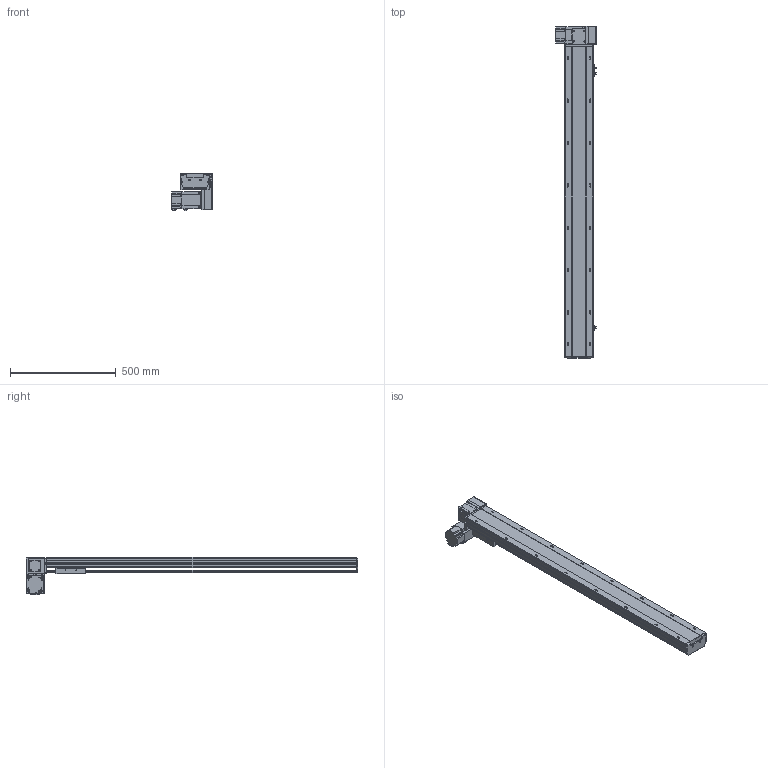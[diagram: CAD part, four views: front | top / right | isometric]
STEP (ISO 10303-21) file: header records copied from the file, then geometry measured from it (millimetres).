
FILE_DESCRIPTION (( 'STEP AP203' ), '1' );
FILE_NAME ('24.STEP', '2020-10-27T11:47:28', ( '' ), ( '' ), 'SwSTEP 2.0', 'SolidWorks 2016', '' );
FILE_SCHEMA (( 'CONFIG_CONTROL_DESIGN' ));
Length unit declared in the file: millimetre
Products named in the file (12): BTB14-RU-24; BTB14-RU-菁釱; BTB14-RU-HZ; BTB14-RU-T75; BTB14-RU-23; BTB14-RU-06; 24; FS-33-T75; FS-07-T75; BTB14-RU-04; BTB14-RU-01; FS-08-T75
Assembly tree (14 placements, depth 2):
  24
    BTB14-RU-菁釱
    BTB14-RU-01
    BTB14-RU-04  x3
    BTB14-RU-06
    BTB14-RU-23  x2
    BTB14-RU-24
    BTB14-RU-HZ
    FS-07-T75
    FS-08-T75
    FS-33-T75
    BTB14-RU-T75
Bounding box: 191.8 x 1568 x 175.5 mm (x, y, z)
Volume: 7519998.2 mm3; surface area: 1527489.7 mm2
Topology: 24 solids, 24 shells, 1798 faces, 4731 edges, 3034 vertices
Faces by surface type: plane 1033, cylinder 498, cone 128, bspline 127, torus 12
Entity records: 53092 total; most frequent: CARTESIAN_POINT 16449, ORIENTED_EDGE 7376, DIRECTION 7106, EDGE_CURVE 3688, LINE 2492, VECTOR 2492, VERTEX_POINT 2412, AXIS2_PLACEMENT_3D 2307
